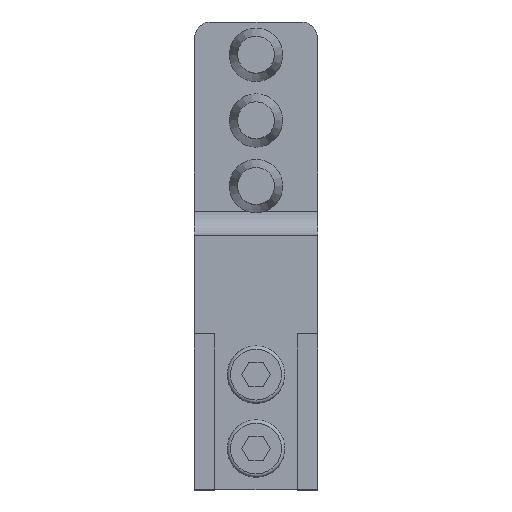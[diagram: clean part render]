
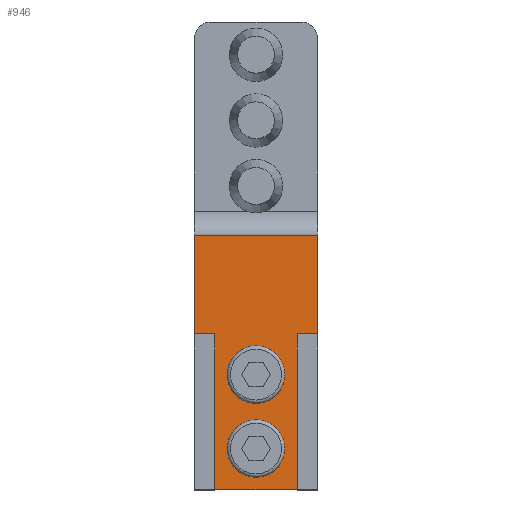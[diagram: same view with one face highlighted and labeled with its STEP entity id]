
A CAD part, top view. The second image highlights one B-rep face of the part: STEP entity #946.
In plain terms, the highlighted planar face has unit normal (0, 0, 1).
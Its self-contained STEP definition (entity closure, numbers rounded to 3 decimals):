
#154=CARTESIAN_POINT('',(12.55,1.0,5.5));
#155=VERTEX_POINT('',#154);
#162=CARTESIAN_POINT('',(2.45,1.0,5.5));
#163=VERTEX_POINT('',#162);
#164=CARTESIAN_POINT('',(2.45,1.,5.5));
#165=DIRECTION('',(1.0,0.0,0.0));
#166=VECTOR('',#165,10.1);
#167=LINE('',#164,#166);
#168=EDGE_CURVE('',#163,#155,#167,.T.);
#272=CARTESIAN_POINT('',(15.,32.,5.5));
#273=VERTEX_POINT('',#272);
#281=CARTESIAN_POINT('',(15.,20.0,5.5));
#282=VERTEX_POINT('',#281);
#283=CARTESIAN_POINT('',(15.,32.0,5.5));
#284=DIRECTION('',(0.0,-1.0,0.0));
#285=VECTOR('',#284,12.0);
#286=LINE('',#283,#285);
#287=EDGE_CURVE('',#273,#282,#286,.T.);
#534=CARTESIAN_POINT('',(0.,32.,5.5));
#535=VERTEX_POINT('',#534);
#543=CARTESIAN_POINT('',(0.,32.,5.5));
#544=DIRECTION('',(1.0,0.0,0.0));
#545=VECTOR('',#544,15.);
#546=LINE('',#543,#545);
#547=EDGE_CURVE('',#535,#273,#546,.T.);
#686=CARTESIAN_POINT('',(9.75,6.,5.5));
#687=VERTEX_POINT('',#686);
#688=CARTESIAN_POINT('',(7.5,6.,5.5));
#689=DIRECTION('',(0.0,0.0,-1.0));
#690=DIRECTION('',(1.0,0.0,0.0));
#691=AXIS2_PLACEMENT_3D('',#688,#689,#690);
#692=CIRCLE('',#691,2.25);
#693=EDGE_CURVE('',#687,#687,#692,.T.);
#706=CARTESIAN_POINT('',(9.75,15.0,5.5));
#707=VERTEX_POINT('',#706);
#708=CARTESIAN_POINT('',(7.5,15.0,5.5));
#709=DIRECTION('',(0.0,0.0,-1.0));
#710=DIRECTION('',(1.0,0.0,0.0));
#711=AXIS2_PLACEMENT_3D('',#708,#709,#710);
#712=CIRCLE('',#711,2.25);
#713=EDGE_CURVE('',#707,#707,#712,.T.);
#807=CARTESIAN_POINT('',(12.55,20.0,5.5));
#808=VERTEX_POINT('',#807);
#815=CARTESIAN_POINT('',(12.55,20.0,5.5));
#816=DIRECTION('',(0.0,-1.0,0.0));
#817=VECTOR('',#816,19.0);
#818=LINE('',#815,#817);
#819=EDGE_CURVE('',#808,#155,#818,.T.);
#830=CARTESIAN_POINT('',(2.45,20.0,5.5));
#831=VERTEX_POINT('',#830);
#832=CARTESIAN_POINT('',(2.45,1.0,5.5));
#833=DIRECTION('',(0.0,1.0,0.0));
#834=VECTOR('',#833,19.0);
#835=LINE('',#832,#834);
#836=EDGE_CURVE('',#163,#831,#835,.T.);
#887=CARTESIAN_POINT('',(12.55,20.0,5.5));
#888=DIRECTION('',(1.0,0.0,0.0));
#889=VECTOR('',#888,2.45);
#890=LINE('',#887,#889);
#891=EDGE_CURVE('',#808,#282,#890,.T.);
#902=CARTESIAN_POINT('',(0.,20.0,5.5));
#903=VERTEX_POINT('',#902);
#904=CARTESIAN_POINT('',(0.,20.0,5.5));
#905=DIRECTION('',(1.0,0.0,0.0));
#906=VECTOR('',#905,2.45);
#907=LINE('',#904,#906);
#908=EDGE_CURVE('',#903,#831,#907,.T.);
#920=CARTESIAN_POINT('',(7.5,26.0,5.5));
#921=DIRECTION('',(0.0,0.0,1.0));
#922=DIRECTION('',(1.0,0.0,0.0));
#923=AXIS2_PLACEMENT_3D('',#920,#921,#922);
#924=PLANE('',#923);
#925=ORIENTED_EDGE('',*,*,#168,.T.);
#926=ORIENTED_EDGE('',*,*,#819,.F.);
#927=ORIENTED_EDGE('',*,*,#891,.T.);
#928=ORIENTED_EDGE('',*,*,#287,.F.);
#929=ORIENTED_EDGE('',*,*,#547,.F.);
#930=CARTESIAN_POINT('',(0.,20.0,5.5));
#931=DIRECTION('',(0.0,1.0,0.0));
#932=VECTOR('',#931,12.);
#933=LINE('',#930,#932);
#934=EDGE_CURVE('',#903,#535,#933,.T.);
#935=ORIENTED_EDGE('',*,*,#934,.F.);
#936=ORIENTED_EDGE('',*,*,#908,.T.);
#937=ORIENTED_EDGE('',*,*,#836,.F.);
#938=EDGE_LOOP('',(#925,#926,#927,#928,#929,#935,#936,#937));
#939=FACE_OUTER_BOUND('',#938,.T.);
#940=ORIENTED_EDGE('',*,*,#693,.T.);
#941=EDGE_LOOP('',(#940));
#942=FACE_BOUND('',#941,.T.);
#943=ORIENTED_EDGE('',*,*,#713,.T.);
#944=EDGE_LOOP('',(#943));
#945=FACE_BOUND('',#944,.T.);
#946=ADVANCED_FACE('',(#939,#942,#945),#924,.T.);
